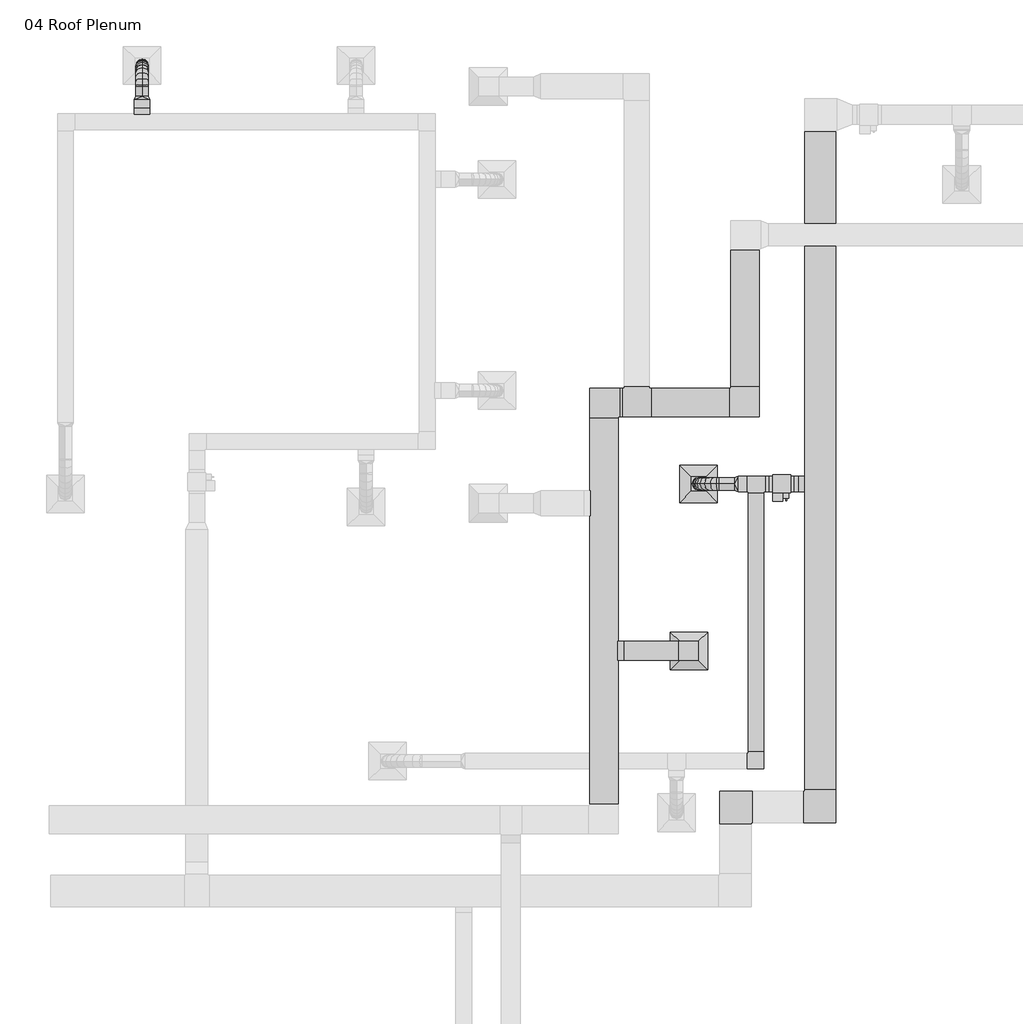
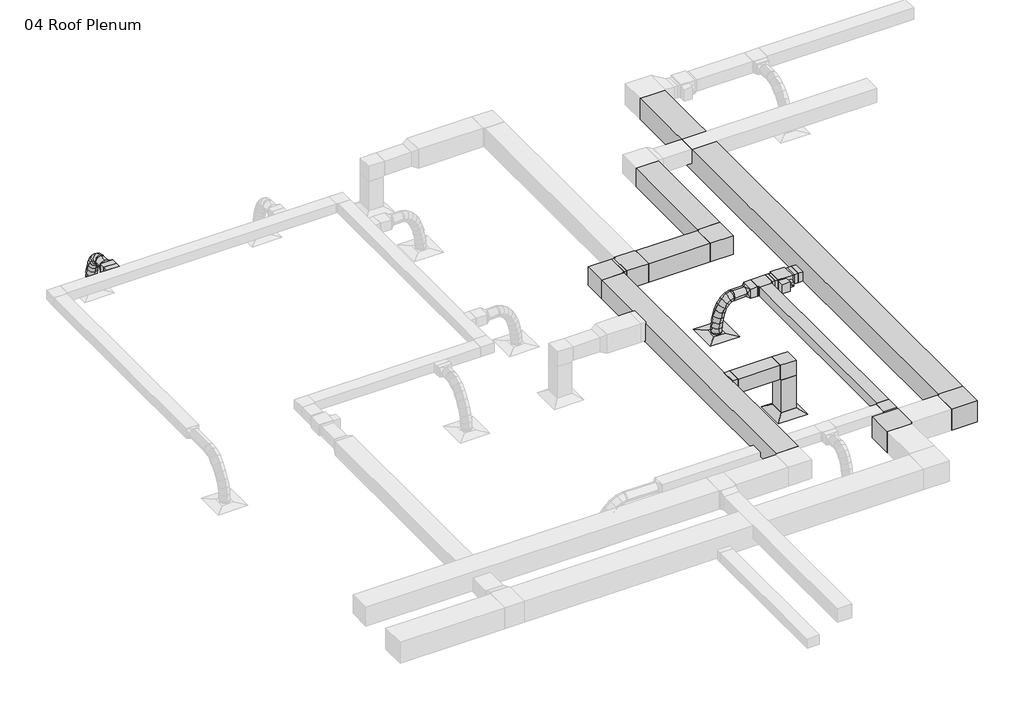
# One storey, part 5 of 9: 16 duct segments, 13 duct fittings, 2 air terminals, 1 proxy.
"""IFC4 building model written with IfcOpenShell, lengths in millimetres."""

from ifc_helpers import new_model, si_unit, point, frame, frame_2d, origin, place, context, project, spatial, polyline, circle_curve, ellipse_curve, trimmed, segment, composite_curve, outline, extrude, transform, mapped, element, save
from ifc_brep_helpers import plane_surface, cylinder_surface, advanced_brep
from components import return_diffuser_d30_returndiffuser_24x24_12x12_connection_ff543d60, supply_diffuser_rectangular_face_round_neck_d30_6390248a, bcn6785_vav_d30_vav1_8c327968, rectangular_elbow_mitered_standard_f09b78ec, rectangular_elbow_mitered_standard_946096ac, rectangular_elbow_mitered_standard_3a774ab6, rectangular_elbow_mitered_standard_4ff1c4e8, rectangular_takeoff_standard_ae128e4c, rectangular_takeoff_standard_c54ab2d1, rectangular_takeoff_standard_e60ef6aa, rectangular_tee_standard_72282cb7, rectangular_tee_standard_b316833c, rectangular_to_round_transition_angle_45_degree_e9430680

model = new_model("IFC4")

# Units and contexts
model_context = context("Model", 3, world=origin())
ifc_project = project(units=[si_unit("LENGTHUNIT", "METRE", prefix="MILLI")], contexts=[model_context])

# Site, building, storey
site = spatial("IfcSite", under=ifc_project)
building = spatial("IfcBuilding", under=site)
storey = spatial("IfcBuildingStorey", under=building, Name="04 Roof Plenum", Elevation=12192.0)

# Air terminals
placement = place(None, origin())
return_diffuser_d30_returndiffuser_24x24_12x12_connection_shape = return_diffuser_d30_returndiffuser_24x24_12x12_connection_ff543d60(model_context)
element("IfcAirTerminal", 1, ObjectType="Return Diffuser : D30_ReturnDiffuser_24x24 12x12 Connection", at=placement, inside=storey, context=model_context, shape_type="MappedRepresentation", body=[
    mapped(return_diffuser_d30_returndiffuser_24x24_12x12_connection_shape, transform((-6594.6439747, 2535.164804, 12192.0), x_axis=(1.0, 0.0, 0.0), y_axis=(0.0, 1.0, 0.0), z_axis=(0.0, 0.0, 1.0))),
])
supply_diffuser_rectangular_face_round_neck_d30_shape = supply_diffuser_rectangular_face_round_neck_d30_6390248a(model_context)
element("IfcAirTerminal", 2, ObjectType="Supply Diffuser - Rectangular Face Round Neck : D30_SupplyDiffuser_24x24 8 Neck", at=placement, inside=storey, context=model_context, shape_type="MappedRepresentation", body=[
    mapped(supply_diffuser_rectangular_face_round_neck_d30_shape, transform((-6441.7028333, 5243.1140793, 12192.0), x_axis=(1.0, 0.0, 0.0), y_axis=(0.0, 1.0, 0.0), z_axis=(0.0, 0.0, 1.0))),
])

# Proxy
bcn6785_vav_d30_vav1_shape = bcn6785_vav_d30_vav1_8c327968(model_context)
element("IfcBuildingElementProxy", 3, Name="BCN6785_VAV : D30_VAV1", ObjectType="BCN6785_VAV : D30_VAV1", at=placement, inside=storey, context=model_context, shape_type="MappedRepresentation", body=[
    mapped(bcn6785_vav_d30_vav1_shape, transform((-5241.2178172, 5243.1140793, 12782.55), x_axis=(1.0, 0.0, 0.0), y_axis=(0.0, 1.0, 0.0), z_axis=(0.0, 0.0, 1.0))),
])

# Duct fittings
rectangular_elbow_mitered_standard_shape = rectangular_elbow_mitered_standard_f09b78ec(model_context)
element("IfcDuctFitting", 4, ObjectType="Rectangular Elbow - Mitered : Standard", at=placement, inside=storey, context=model_context, shape_type="MappedRepresentation", body=[
    mapped(rectangular_elbow_mitered_standard_shape, transform((-5507.9178172, 747.3140793, 12903.2), x_axis=(1.0, 0.0, 0.0), y_axis=(0.0, 1.0, 0.0), z_axis=(0.0, 0.0, 1.0))),
])
rectangular_elbow_mitered_standard_2_shape = rectangular_elbow_mitered_standard_946096ac(model_context)
element("IfcDuctFitting", 5, ObjectType="Rectangular Elbow - Mitered : Standard", at=placement, inside=storey, context=model_context, shape_type="MappedRepresentation", body=[
    mapped(rectangular_elbow_mitered_standard_2_shape, transform((-5838.9142705, 1.6809317, 13030.2), x_axis=(-1.0, 0.0, 0.0), y_axis=(0.0, -1.0, 0.0), z_axis=(0.0, 0.0, 1.0))),
])
element("IfcDuctFitting", 6, ObjectType="Rectangular Elbow - Mitered : Standard", at=placement, inside=storey, context=model_context, shape_type="MappedRepresentation", body=[
    mapped(rectangular_elbow_mitered_standard_2_shape, transform((-4467.3142705, 1.6809317, 13030.2), x_axis=(1.0, 0.0, 0.0), y_axis=(0.0, 1.0, 0.0), z_axis=(0.0, 0.0, 1.0))),
])
rectangular_elbow_mitered_standard_3_shape = rectangular_elbow_mitered_standard_3a774ab6(model_context)
element("IfcDuctFitting", 7, ObjectType="Rectangular Elbow - Mitered : Standard", at=placement, inside=storey, context=model_context, shape_type="MappedRepresentation", body=[
    mapped(rectangular_elbow_mitered_standard_3_shape, transform((-7972.5142705, 6562.5101985, 13112.75), x_axis=(-1.0, 0.0, 0.0), y_axis=(0.0, -1.0, 0.0), z_axis=(0.0, 0.0, 1.0))),
])
element("IfcDuctFitting", 8, ObjectType="Rectangular Elbow - Mitered : Standard", at=placement, inside=storey, context=model_context, shape_type="MappedRepresentation", body=[
    mapped(rectangular_elbow_mitered_standard_3_shape, transform((-5686.5142705, 6562.5101985, 13112.75), x_axis=(1.0, 0.0, 0.0), y_axis=(0.0, 1.0, 0.0), z_axis=(0.0, 0.0, 1.0))),
])
rectangular_elbow_mitered_standard_4_shape = rectangular_elbow_mitered_standard_4ff1c4e8(model_context)
element("IfcDuctFitting", 9, ObjectType="Rectangular Elbow - Mitered : Standard", at=placement, inside=storey, context=model_context, shape_type="MappedRepresentation", body=[
    mapped(rectangular_elbow_mitered_standard_4_shape, transform((-6594.6439747, 2535.164804, 13182.6), x_axis=(0.0, 0.0, 1.0), y_axis=(-1.0, 0.0, 0.0), z_axis=(0.0, -1.0, 0.0))),
])
rectangular_takeoff_standard_shape = rectangular_takeoff_standard_ae128e4c(model_context)
element("IfcDuctFitting", 10, ObjectType="Rectangular Takeoff : Standard", at=placement, inside=storey, context=model_context, shape_type="MappedRepresentation", body=[
    mapped(rectangular_takeoff_standard_shape, transform((-4721.3142705, 5243.1140793, 12903.2), x_axis=(-1.0, 0.0, 0.0), y_axis=(0.0, 1.0, 0.0), z_axis=(0.0, 0.0, -1.0))),
])
rectangular_takeoff_standard_2_shape = rectangular_takeoff_standard_c54ab2d1(model_context)
element("IfcDuctFitting", 11, ObjectType="Rectangular Takeoff : Standard", at=placement, inside=storey, context=model_context, shape_type="MappedRepresentation", body=[
    mapped(rectangular_takeoff_standard_2_shape, transform((-15460.7496105, 11240.0921675, 13030.2), x_axis=(0.0, 1.0, 0.0), y_axis=(1.0, 0.0, 0.0), z_axis=(0.0, 0.0, -1.0))),
])
rectangular_takeoff_standard_3_shape = rectangular_takeoff_standard_e60ef6aa(model_context)
element("IfcDuctFitting", 12, ObjectType="Rectangular Takeoff : Standard", at=placement, inside=storey, context=model_context, shape_type="MappedRepresentation", body=[
    mapped(rectangular_takeoff_standard_3_shape, transform((-7743.9142705, 2535.164804, 13182.6), x_axis=(1.0, 0.0, 0.0), y_axis=(0.0, -1.0, 0.0), z_axis=(0.0, 0.0, -1.0))),
])
rectangular_tee_standard_shape = rectangular_tee_standard_72282cb7(model_context)
element("IfcDuctFitting", 13, ObjectType="Rectangular Tee : Standard", at=placement, inside=storey, context=model_context, shape_type="MappedRepresentation", body=[
    mapped(rectangular_tee_standard_shape, transform((-7438.7501862, 6562.5101985, 13112.75), x_axis=(-1.0, 0.0, 0.0), y_axis=(0.0, -1.0, 0.0), z_axis=(0.0, 0.0, 1.0))),
])
rectangular_tee_standard_2_shape = rectangular_tee_standard_b316833c(model_context)
element("IfcDuctFitting", 14, ObjectType="Rectangular Tee : Standard", at=placement, inside=storey, context=model_context, shape_type="MappedRepresentation", body=[
    mapped(rectangular_tee_standard_2_shape, transform((-5507.9178172, 5243.1140793, 12903.2), x_axis=(1.0, 0.0, 0.0), y_axis=(0.0, 1.0, 0.0), z_axis=(0.0, 0.0, 1.0))),
])
rectangular_to_round_transition_angle_45_degree_shape = rectangular_to_round_transition_angle_45_degree_e9430680(model_context)
element("IfcDuctFitting", 15, ObjectType="Rectangular to Round Transition - Angle : 45 Degree", at=placement, inside=storey, context=model_context, shape_type="MappedRepresentation", body=[
    mapped(rectangular_to_round_transition_angle_45_degree_shape, transform((-5800.0178172, 5243.1140793, 12903.2), x_axis=(-1.0, 0.0, 0.0), y_axis=(0.0, -1.0, 0.0), z_axis=(0.0, 0.0, 1.0))),
])
element("IfcDuctFitting", 16, ObjectType="Rectangular to Round Transition - Angle : 45 Degree", at=placement, inside=storey, context=model_context, shape_type="MappedRepresentation", body=[
    mapped(rectangular_to_round_transition_angle_45_degree_shape, transform((-15460.7496105, 11468.6921675, 13030.2), x_axis=(0.0, 1.0, 0.0), y_axis=(-1.0, 0.0, 0.0), z_axis=(0.0, 0.0, 1.0))),
])

# Duct segments
element("IfcDuctSegment", 17, ObjectType="Flex - Round", at=placement, inside=storey, context=model_context, shape_type="AdvancedBrep", body=[
    advanced_brep(
    [(-6115.3388417, 5141.5140793, 12903.2), (-6115.3388417, 5243.1140793, 12801.6), (-6115.3388417, 5344.7140793, 12903.2), (-6115.3388417, 5243.1140793, 13004.8), (-6136.8006942, 5141.5140793, 12903.2), (-6122.3666998, 5243.1140793, 12801.6), (-6136.8006942, 5344.7140793, 12903.2), (-6151.2346887, 5243.1140793, 13004.8), (-6441.7028333, 5141.5140793, 12245.975), (-6543.3028333, 5243.1140793, 12245.975), (-6441.7028333, 5344.7140793, 12245.975), (-6340.1028333, 5243.1140793, 12245.975), (-6199.5889682, 5141.5140793, 12884.9922452), (-6154.5785198, 5243.1140793, 12792.2590055), (-6199.5889682, 5344.7140793, 12884.9922452), (-6244.5994165, 5243.1140793, 12977.725485), (-6269.5234298, 5141.5140793, 12834.9053319), (-6197.7079979, 5243.1140793, 12761.3697647), (-6269.5234298, 5344.7140793, 12834.9053319), (-6341.3388618, 5243.1140793, 12908.4408991), (-6326.0922551, 5141.5140793, 12759.7437864), (-6238.6700491, 5243.1140793, 12706.9445391), (-6326.0922551, 5344.7140793, 12759.7437864), (-6413.5144611, 5243.1140793, 12812.5430337), (-6370.2454726, 5141.5140793, 12666.3121351), (-6275.3559299, 5243.1140793, 12629.3143544), (-6370.2454726, 5344.7140793, 12666.3121351), (-6465.1350152, 5243.1140793, 12703.3099158), (-6402.9331106, 5141.5140793, 12561.4149044), (-6304.3846196, 5243.1140793, 12536.1589802), (-6402.9331106, 5344.7140793, 12561.4149044), (-6501.4816016, 5243.1140793, 12586.6708286), (-6425.1051977, 5141.5140793, 12451.8566207), (-6324.6886562, 5243.1140793, 12435.8312394), (-6425.1051977, 5344.7140793, 12451.8566207), (-6525.5217392, 5243.1140793, 12467.882002), (-6437.7117625, 5141.5140793, 12344.4418105), (-6336.362671, 5243.1140793, 12336.3622635), (-6437.7117625, 5344.7140793, 12344.4418105), (-6539.0608539, 5243.1140793, 12352.5213574), (-6441.7028333, 5141.5140793, 12250.0896872), (-6340.1028333, 5243.1140793, 12247.9418204), (-6441.7028333, 5344.7140793, 12250.0896872), (-6543.3028333, 5243.1140793, 12252.2375539)],
    [
        (0, 1, circle_curve(frame((-6115.3388417, 5243.1140793, 12903.2), z_axis=(1.0, 0.0, 0.0), x_axis=(0.0, -1.0, 0.0)), 101.6)),
        (1, 2, circle_curve(frame((-6115.3388417, 5243.1140793, 12903.2), z_axis=(1.0, 0.0, 0.0), x_axis=(0.0, -1.0, 0.0)), 101.6)),
        (2, 3, circle_curve(frame((-6115.3388417, 5243.1140793, 12903.2), z_axis=(1.0, 0.0, 0.0), x_axis=(0.0, -1.0, 0.0)), 101.6)),
        (3, 0, circle_curve(frame((-6115.3388417, 5243.1140793, 12903.2), z_axis=(1.0, 0.0, 0.0), x_axis=(0.0, -1.0, 0.0)), 101.6)),
        (0, 4),
        (4, 5, ellipse_curve(frame((-6136.8006942, 5243.1140793, 12903.2), z_axis=(0.9900587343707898, 0.0, 0.14065455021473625), x_axis=(0.14065455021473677, -1.7075669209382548e-12, -0.9900587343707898)), 102.6201744, 101.6)),
        (5, 1),
        (5, 6, ellipse_curve(frame((-6136.8006942, 5243.1140793, 12903.2), z_axis=(0.9900587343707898, 0.0, 0.14065455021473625), x_axis=(0.14065455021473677, -1.7075669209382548e-12, -0.9900587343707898)), 102.6201744, 101.6)),
        (6, 2),
        (6, 7, ellipse_curve(frame((-6136.8006942, 5243.1140793, 12903.2), z_axis=(0.9900587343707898, 0.0, 0.14065455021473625), x_axis=(0.14065455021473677, -1.7075669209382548e-12, -0.9900587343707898)), 102.6201744, 101.6)),
        (7, 3),
        (7, 4, ellipse_curve(frame((-6136.8006942, 5243.1140793, 12903.2), z_axis=(0.9900587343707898, 0.0, 0.14065455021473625), x_axis=(0.14065455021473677, -1.7075669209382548e-12, -0.9900587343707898)), 102.6201744, 101.6)),
        (8, 9, circle_curve(frame((-6441.7028333, 5243.1140793, 12245.975), z_axis=(0.0, 0.0, -1.0), x_axis=(1.3693347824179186e-12, -1.0, 0.0)), 101.6)),
        (9, 10, circle_curve(frame((-6441.7028333, 5243.1140793, 12245.975), z_axis=(0.0, 0.0, -1.0), x_axis=(1.3693347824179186e-12, -1.0, 0.0)), 101.6)),
        (10, 11, circle_curve(frame((-6441.7028333, 5243.1140793, 12245.975), z_axis=(0.0, 0.0, -1.0), x_axis=(1.3693347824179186e-12, -1.0, 0.0)), 101.6)),
        (11, 8, circle_curve(frame((-6441.7028333, 5243.1140793, 12245.975), z_axis=(0.0, 0.0, -1.0), x_axis=(1.3693347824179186e-12, -1.0, 0.0)), 101.6)),
        (4, 12),
        (12, 13, ellipse_curve(frame((-6199.5889682, 5243.1140793, 12884.9922452), z_axis=(0.8996278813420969, 0.0, 0.4366573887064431), x_axis=(0.43665738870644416, -1.5599948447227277e-12, -0.8996278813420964)), 103.0795528, 101.6)),
        (13, 5),
        (13, 14, ellipse_curve(frame((-6199.5889682, 5243.1140793, 12884.9922452), z_axis=(0.8996278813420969, 0.0, 0.4366573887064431), x_axis=(0.43665738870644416, -1.5599948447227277e-12, -0.8996278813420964)), 103.0795528, 101.6)),
        (14, 6),
        (14, 15, ellipse_curve(frame((-6199.5889682, 5243.1140793, 12884.9922452), z_axis=(0.8996278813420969, 0.0, 0.4366573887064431), x_axis=(0.43665738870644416, -1.5599948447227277e-12, -0.8996278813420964)), 103.0795528, 101.6)),
        (15, 7),
        (15, 12, ellipse_curve(frame((-6199.5889682, 5243.1140793, 12884.9922452), z_axis=(0.8996278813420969, 0.0, 0.4366573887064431), x_axis=(0.43665738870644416, -1.5599948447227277e-12, -0.8996278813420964)), 103.0795528, 101.6)),
        (12, 16),
        (16, 17, ellipse_curve(frame((-6269.5234298, 5243.1140793, 12834.9053319), z_axis=(0.7154248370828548, 1.155745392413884e-12, 0.6986897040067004), x_axis=(0.6986897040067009, 0.0, -0.7154248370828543)), 102.7858741, 101.6)),
        (17, 13),
        (17, 18, ellipse_curve(frame((-6269.5234298, 5243.1140793, 12834.9053319), z_axis=(0.7154248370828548, 1.155745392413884e-12, 0.6986897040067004), x_axis=(0.6986897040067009, 0.0, -0.7154248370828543)), 102.7858741, 101.6)),
        (18, 14),
        (18, 19, ellipse_curve(frame((-6269.5234298, 5243.1140793, 12834.9053319), z_axis=(0.7154248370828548, 1.155745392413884e-12, 0.6986897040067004), x_axis=(0.6986897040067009, 0.0, -0.7154248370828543)), 102.7858741, 101.6)),
        (19, 15),
        (19, 16, ellipse_curve(frame((-6269.5234298, 5243.1140793, 12834.9053319), z_axis=(0.7154248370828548, 1.155745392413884e-12, 0.6986897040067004), x_axis=(0.6986897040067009, 0.0, -0.7154248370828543)), 102.7858741, 101.6)),
        (16, 20),
        (20, 21, ellipse_curve(frame((-6326.0922551, 5243.1140793, 12759.7437864), z_axis=(0.5169841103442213, 1.3163360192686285e-12, 0.855994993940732), x_axis=(0.855994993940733, 0.0, -0.5169841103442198)), 102.1293426, 101.6)),
        (21, 17),
        (21, 22, ellipse_curve(frame((-6326.0922551, 5243.1140793, 12759.7437864), z_axis=(0.5169841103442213, 1.3163360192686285e-12, 0.855994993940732), x_axis=(0.855994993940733, 0.0, -0.5169841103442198)), 102.1293426, 101.6)),
        (22, 18),
        (22, 23, ellipse_curve(frame((-6326.0922551, 5243.1140793, 12759.7437864), z_axis=(0.5169841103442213, 1.3163360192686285e-12, 0.855994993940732), x_axis=(0.855994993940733, 0.0, -0.5169841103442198)), 102.1293426, 101.6)),
        (23, 19),
        (23, 20, ellipse_curve(frame((-6326.0922551, 5243.1140793, 12759.7437864), z_axis=(0.5169841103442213, 1.3163360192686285e-12, 0.855994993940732), x_axis=(0.855994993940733, 0.0, -0.5169841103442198)), 102.1293426, 101.6)),
        (20, 24),
        (24, 25, ellipse_curve(frame((-6370.2454726, 5243.1140793, 12666.3121351), z_axis=(0.3632673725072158, 1.3045725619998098e-12, 0.9316849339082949), x_axis=(0.9316849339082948, 0.0, -0.36326737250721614)), 101.8472438, 101.6)),
        (25, 21),
        (25, 26, ellipse_curve(frame((-6370.2454726, 5243.1140793, 12666.3121351), z_axis=(0.3632673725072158, 1.3045725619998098e-12, 0.9316849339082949), x_axis=(0.9316849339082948, 0.0, -0.36326737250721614)), 101.8472438, 101.6)),
        (26, 22),
        (26, 27, ellipse_curve(frame((-6370.2454726, 5243.1140793, 12666.3121351), z_axis=(0.3632673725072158, 1.3045725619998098e-12, 0.9316849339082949), x_axis=(0.9316849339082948, 0.0, -0.36326737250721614)), 101.8472438, 101.6)),
        (27, 23),
        (27, 24, ellipse_curve(frame((-6370.2454726, 5243.1140793, 12666.3121351), z_axis=(0.3632673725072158, 1.3045725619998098e-12, 0.9316849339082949), x_axis=(0.9316849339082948, 0.0, -0.36326737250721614)), 101.8472438, 101.6)),
        (24, 28),
        (28, 29, ellipse_curve(frame((-6402.9331106, 5243.1140793, 12561.4149044), z_axis=(0.24825618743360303, 1.169956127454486e-12, 0.968694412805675), x_axis=(0.9686944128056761, 1.819283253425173e-12, -0.24825618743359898)), 101.7333121, 101.6)),
        (29, 25),
        (29, 30, ellipse_curve(frame((-6402.9331106, 5243.1140793, 12561.4149044), z_axis=(0.24825618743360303, 1.169956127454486e-12, 0.968694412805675), x_axis=(0.9686944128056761, 1.819283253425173e-12, -0.24825618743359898)), 101.7333121, 101.6)),
        (30, 26),
        (30, 31, ellipse_curve(frame((-6402.9331106, 5243.1140793, 12561.4149044), z_axis=(0.24825618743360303, 1.169956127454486e-12, 0.968694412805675), x_axis=(0.9686944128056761, 1.819283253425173e-12, -0.24825618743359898)), 101.7333121, 101.6)),
        (31, 27),
        (31, 28, ellipse_curve(frame((-6402.9331106, 5243.1140793, 12561.4149044), z_axis=(0.24825618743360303, 1.169956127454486e-12, 0.968694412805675), x_axis=(0.9686944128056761, 1.819283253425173e-12, -0.24825618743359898)), 101.7333121, 101.6)),
        (28, 32),
        (32, 33, ellipse_curve(frame((-6425.1051977, 5243.1140793, 12451.8566207), z_axis=(0.15759481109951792, 0.0, 0.9875038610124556), x_axis=(0.9875038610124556, 3.3119562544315e-12, -0.15759481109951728)), 101.6872394, 101.6)),
        (33, 29),
        (33, 34, ellipse_curve(frame((-6425.1051977, 5243.1140793, 12451.8566207), z_axis=(0.15759481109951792, 0.0, 0.9875038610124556), x_axis=(0.9875038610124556, 3.3119562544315e-12, -0.15759481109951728)), 101.6872394, 101.6)),
        (34, 30),
        (34, 35, ellipse_curve(frame((-6425.1051977, 5243.1140793, 12451.8566207), z_axis=(0.15759481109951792, 0.0, 0.9875038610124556), x_axis=(0.9875038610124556, 3.3119562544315e-12, -0.15759481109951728)), 101.6872394, 101.6)),
        (35, 31),
        (35, 32, ellipse_curve(frame((-6425.1051977, 5243.1140793, 12451.8566207), z_axis=(0.15759481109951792, 0.0, 0.9875038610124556), x_axis=(0.9875038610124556, 3.3119562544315e-12, -0.15759481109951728)), 101.6872394, 101.6)),
        (32, 36),
        (36, 37, ellipse_curve(frame((-6437.7117625, 5243.1140793, 12344.4418105), z_axis=(0.07946785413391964, 0.0, 0.9968374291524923), x_axis=(0.9968374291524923, 6.2849785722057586e-12, -0.07946785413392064)), 101.670632, 101.6)),
        (37, 33),
        (37, 38, ellipse_curve(frame((-6437.7117625, 5243.1140793, 12344.4418105), z_axis=(0.07946785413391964, 0.0, 0.9968374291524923), x_axis=(0.9968374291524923, 6.2849785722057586e-12, -0.07946785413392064)), 101.670632, 101.6)),
        (38, 34),
        (38, 39, ellipse_curve(frame((-6437.7117625, 5243.1140793, 12344.4418105), z_axis=(0.07946785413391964, 0.0, 0.9968374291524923), x_axis=(0.9968374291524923, 6.2849785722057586e-12, -0.07946785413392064)), 101.670632, 101.6)),
        (39, 35),
        (39, 36, ellipse_curve(frame((-6437.7117625, 5243.1140793, 12344.4418105), z_axis=(0.07946785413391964, 0.0, 0.9968374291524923), x_axis=(0.9968374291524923, 6.2849785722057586e-12, -0.07946785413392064)), 101.670632, 101.6)),
        (36, 40),
        (40, 41, ellipse_curve(frame((-6441.7028333, 5243.1140793, 12250.0896872), z_axis=(0.021135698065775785, 0.0, 0.9997766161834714), x_axis=(0.9997766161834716, 7.866593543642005e-12, -0.02113569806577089)), 101.6227009, 101.6)),
        (41, 37),
        (41, 42, ellipse_curve(frame((-6441.7028333, 5243.1140793, 12250.0896872), z_axis=(0.021135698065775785, 0.0, 0.9997766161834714), x_axis=(0.9997766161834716, 7.866593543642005e-12, -0.02113569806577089)), 101.6227009, 101.6)),
        (42, 38),
        (42, 43, ellipse_curve(frame((-6441.7028333, 5243.1140793, 12250.0896872), z_axis=(0.021135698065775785, 0.0, 0.9997766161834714), x_axis=(0.9997766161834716, 7.866593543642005e-12, -0.02113569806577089)), 101.6227009, 101.6)),
        (43, 39),
        (43, 40, ellipse_curve(frame((-6441.7028333, 5243.1140793, 12250.0896872), z_axis=(0.021135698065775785, 0.0, 0.9997766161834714), x_axis=(0.9997766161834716, 7.866593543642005e-12, -0.02113569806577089)), 101.6227009, 101.6)),
        (40, 8),
        (11, 41),
        (10, 42),
        (9, 43),
    ],
    [
        plane_surface(frame((-6115.3388417, 5243.1140793, 12801.6), z_axis=(1.0, 0.0, 0.0), x_axis=(0.0, -1.0, 0.0))),
        cylinder_surface(frame((-6115.3388417, 5243.1140793, 12903.2), z_axis=(1.0, 0.0, 0.0), x_axis=(0.0, -1.0, 0.0)), 101.6),
        plane_surface(frame((-6441.7028333, 5141.5140793, 12245.975), z_axis=(0.0, 0.0, -1.0), x_axis=(-1.0, 0.0, 0.0))),
        cylinder_surface(frame((-6136.8006942, 5243.1140793, 12903.2), z_axis=(0.9604325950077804, 0.0, 0.278512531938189), x_axis=(0.0, -1.0, 0.0)), 101.6),
        cylinder_surface(frame((-6199.5889682, 5243.1140793, 12884.9922452), z_axis=(0.812997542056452, 1.0070781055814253e-12, 0.5822671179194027), x_axis=(1.0068307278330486e-12, -1.0, 0.0)), 101.6),
        cylinder_surface(frame((-6269.5234298, 5243.1140793, 12834.9053319), z_axis=(0.6013439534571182, 1.2777442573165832e-12, 0.7989902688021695), x_axis=(1.3061802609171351e-12, -1.0, 0.0)), 101.6),
        cylinder_surface(frame((-6326.0922551, 5243.1140793, 12759.7437864), z_axis=(0.42726514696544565, 1.3412824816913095e-12, 0.9041263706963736), x_axis=(1.423699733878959e-12, -1.0, 0.0)), 101.6),
        cylinder_surface(frame((-6370.2454726, 5243.1140793, 12666.3121351), z_axis=(0.29750586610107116, 1.2615286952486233e-12, 0.9547199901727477), x_axis=(1.44699364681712e-12, -1.0, 0.0)), 101.6),
        cylinder_surface(frame((-6402.9331106, 5243.1140793, 12561.4149044), z_axis=(0.19835587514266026, 1.075317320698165e-12, 0.9801300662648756), x_axis=(1.4308705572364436e-12, -1.0, 0.0)), 101.6),
        cylinder_surface(frame((-6425.1051977, 5243.1140793, 12451.8566207), z_axis=(0.11656334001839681, 0.0, 0.9931832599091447), x_axis=(1.4043990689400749e-12, -1.0, 0.0)), 101.6),
        cylinder_surface(frame((-6437.7117625, 5243.1140793, 12344.4418105), z_axis=(0.042261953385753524, 0.0, 0.9991065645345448), x_axis=(1.3751412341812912e-12, -1.0, 0.0)), 101.6),
        cylinder_surface(frame((-6441.7028333, 5243.1140793, 12250.0896872), z_axis=(0.0, 0.0, 1.0), x_axis=(1.3693347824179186e-12, -1.0, 0.0)), 101.6),
    ],
    [
        (0, [[1, 2, 3, 4]]),
        (1, [[-1, 5, 6, 7]]),
        (1, [[-2, -7, 8, 9]]),
        (1, [[-3, -9, 10, 11]]),
        (1, [[-4, -11, 12, -5]]),
        (2, [[13, 14, 15, 16]]),
        (3, [[-6, 17, 18, 19]]),
        (3, [[-8, -19, 20, 21]]),
        (3, [[-10, -21, 22, 23]]),
        (3, [[-12, -23, 24, -17]]),
        (4, [[-18, 25, 26, 27]]),
        (4, [[-20, -27, 28, 29]]),
        (4, [[-22, -29, 30, 31]]),
        (4, [[-24, -31, 32, -25]]),
        (5, [[-26, 33, 34, 35]]),
        (5, [[-28, -35, 36, 37]]),
        (5, [[-30, -37, 38, 39]]),
        (5, [[-32, -39, 40, -33]]),
        (6, [[-34, 41, 42, 43]]),
        (6, [[-36, -43, 44, 45]]),
        (6, [[-38, -45, 46, 47]]),
        (6, [[-40, -47, 48, -41]]),
        (7, [[-42, 49, 50, 51]]),
        (7, [[-44, -51, 52, 53]]),
        (7, [[-46, -53, 54, 55]]),
        (7, [[-48, -55, 56, -49]]),
        (8, [[-50, 57, 58, 59]]),
        (8, [[-52, -59, 60, 61]]),
        (8, [[-54, -61, 62, 63]]),
        (8, [[-56, -63, 64, -57]]),
        (9, [[-58, 65, 66, 67]]),
        (9, [[-60, -67, 68, 69]]),
        (9, [[-62, -69, 70, 71]]),
        (9, [[-64, -71, 72, -65]]),
        (10, [[-66, 73, 74, 75]]),
        (10, [[-68, -75, 76, 77]]),
        (10, [[-70, -77, 78, 79]]),
        (10, [[-72, -79, 80, -73]]),
        (11, [[-74, 81, -16, 82]]),
        (11, [[-76, -82, -15, 83]]),
        (11, [[-78, -83, -14, 84]]),
        (11, [[-80, -84, -13, -81]]),
    ],
),
])
element("IfcDuctSegment", 18, ObjectType="Flex - Round", at=placement, inside=storey, context=model_context, shape_type="AdvancedBrep", body=[
    advanced_brep(
    [(-15562.3496105, 11682.413192, 13030.2), (-15460.7496105, 11682.413192, 12928.6), (-15359.1496105, 11682.413192, 13030.2), (-15460.7496105, 11682.413192, 13131.8), (-15562.3496105, 11702.4276389, 13030.2), (-15460.7496105, 11689.3912338, 12928.6), (-15359.1496105, 11702.4276389, 13030.2), (-15460.7496105, 11715.464044, 13131.8), (-15562.3496105, 12027.4921675, 12245.975), (-15460.7496105, 12129.0633727, 12248.3937348), (-15359.1496105, 12027.4921675, 12245.975), (-15460.7496105, 11925.9209623, 12243.5562652), (-15562.3496105, 11769.4660126, 13012.7084931), (-15460.7496105, 11726.9233762, 12918.8071949), (-15359.1496105, 11769.4660126, 13012.7084931), (-15460.7496105, 11812.008649, 13106.6097913), (-15562.3496105, 11841.1410968, 12964.1388308), (-15460.7496105, 11770.923806, 12888.990892), (-15359.1496105, 11841.1410968, 12964.1388308), (-15460.7496105, 11911.3583875, 13039.2867696), (-15562.3496105, 11898.8098982, 12890.3483007), (-15460.7496105, 11812.0668866, 12836.3459671), (-15359.1496105, 11898.8098982, 12890.3483007), (-15460.7496105, 11985.5529098, 12944.3506344), (-15562.3496105, 11943.8438704, 12797.1941904), (-15460.7496105, 11849.1898623, 12759.555988), (-15359.1496105, 11943.8438704, 12797.1941904), (-15460.7496105, 12038.4978784, 12834.8323928), (-15562.3496105, 11977.6144668, 12690.5337874), (-15460.7496105, 11879.208129, 12664.7468712), (-15359.1496105, 11977.6144668, 12690.5337874), (-15460.7496105, 12076.0208046, 12716.3207035), (-15562.3496105, 12001.4931412, 12576.2243792), (-15460.7496105, 11901.2665537, 12559.151166), (-15359.1496105, 12001.4931412, 12576.2243792), (-15460.7496105, 12101.7197288, 12593.2975925), (-15562.3496105, 12016.8513471, 12460.1232536), (-15460.7496105, 11915.739772, 12449.740148), (-15359.1496105, 12016.8513471, 12460.1232536), (-15460.7496105, 12117.9629222, 12470.5063592), (-15562.3496105, 12025.060538, 12348.087698), (-15460.7496105, 11923.5490074, 12343.1630143), (-15359.1496105, 12025.060538, 12348.087698), (-15460.7496105, 12126.5720685, 12353.0123817)],
    [
        (0, 1, circle_curve(frame((-15460.7496105, 11682.413192, 13030.2), z_axis=(0.0, -1.0, 0.0), x_axis=(-1.0, 0.0, 0.0)), 101.6)),
        (1, 2, circle_curve(frame((-15460.7496105, 11682.413192, 13030.2), z_axis=(0.0, -1.0, 0.0), x_axis=(-1.0, 0.0, 0.0)), 101.6)),
        (2, 3, circle_curve(frame((-15460.7496105, 11682.413192, 13030.2), z_axis=(0.0, -1.0, 0.0), x_axis=(-1.0, 0.0, 0.0)), 101.6)),
        (3, 0, circle_curve(frame((-15460.7496105, 11682.413192, 13030.2), z_axis=(0.0, -1.0, 0.0), x_axis=(-1.0, 0.0, 0.0)), 101.6)),
        (0, 4),
        (4, 5, ellipse_curve(frame((-15460.7496105, 11702.4276389, 13030.2), z_axis=(0.0, -0.9918684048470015, 0.1272677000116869), x_axis=(0.0, -0.12726770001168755, -0.9918684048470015)), 102.4329432, 101.6)),
        (5, 1),
        (5, 6, ellipse_curve(frame((-15460.7496105, 11702.4276389, 13030.2), z_axis=(0.0, -0.9918684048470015, 0.1272677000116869), x_axis=(0.0, -0.12726770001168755, -0.9918684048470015)), 102.4329432, 101.6)),
        (6, 2),
        (6, 7, ellipse_curve(frame((-15460.7496105, 11702.4276389, 13030.2), z_axis=(0.0, -0.9918684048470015, 0.1272677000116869), x_axis=(0.0, -0.12726770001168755, -0.9918684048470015)), 102.4329432, 101.6)),
        (7, 3),
        (7, 4, ellipse_curve(frame((-15460.7496105, 11702.4276389, 13030.2), z_axis=(0.0, -0.9918684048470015, 0.1272677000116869), x_axis=(0.0, -0.12726770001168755, -0.9918684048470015)), 102.4329432, 101.6)),
        (8, 9, circle_curve(frame((-15460.7496105, 12027.4921675, 12245.975), z_axis=(0.0, 0.02380644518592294, -0.9997165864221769), x_axis=(-1.0, 0.0, 0.0)), 101.6)),
        (9, 10, circle_curve(frame((-15460.7496105, 12027.4921675, 12245.975), z_axis=(0.0, 0.02380644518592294, -0.9997165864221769), x_axis=(-1.0, 0.0, 0.0)), 101.6)),
        (10, 11, circle_curve(frame((-15460.7496105, 12027.4921675, 12245.975), z_axis=(0.0, 0.02380644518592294, -0.9997165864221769), x_axis=(-1.0, 0.0, 0.0)), 101.6)),
        (11, 8, circle_curve(frame((-15460.7496105, 12027.4921675, 12245.975), z_axis=(0.0, 0.02380644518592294, -0.9997165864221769), x_axis=(-1.0, 0.0, 0.0)), 101.6)),
        (4, 12),
        (12, 13, ellipse_curve(frame((-15460.7496105, 11769.4660126, 13012.7084931), z_axis=(0.0, -0.9108765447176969, 0.4126789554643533), x_axis=(0.0, -0.4126789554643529, -0.910876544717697)), 103.0889408, 101.6)),
        (13, 5),
        (13, 14, ellipse_curve(frame((-15460.7496105, 11769.4660126, 13012.7084931), z_axis=(0.0, -0.9108765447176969, 0.4126789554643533), x_axis=(0.0, -0.4126789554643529, -0.910876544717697)), 103.0889408, 101.6)),
        (14, 6),
        (14, 15, ellipse_curve(frame((-15460.7496105, 11769.4660126, 13012.7084931), z_axis=(0.0, -0.9108765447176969, 0.4126789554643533), x_axis=(0.0, -0.4126789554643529, -0.910876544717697)), 103.0889408, 101.6)),
        (15, 7),
        (15, 12, ellipse_curve(frame((-15460.7496105, 11769.4660126, 13012.7084931), z_axis=(0.0, -0.9108765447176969, 0.4126789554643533), x_axis=(0.0, -0.4126789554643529, -0.910876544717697)), 103.0889408, 101.6)),
        (12, 16),
        (16, 17, ellipse_curve(frame((-15460.7496105, 11841.1410968, 12964.1388308), z_axis=(0.0, -0.7306709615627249, 0.6827297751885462), x_axis=(0.0, -0.6827297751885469, -0.7306709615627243)), 102.8478518, 101.6)),
        (17, 13),
        (17, 18, ellipse_curve(frame((-15460.7496105, 11841.1410968, 12964.1388308), z_axis=(0.0, -0.7306709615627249, 0.6827297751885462), x_axis=(0.0, -0.6827297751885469, -0.7306709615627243)), 102.8478518, 101.6)),
        (18, 14),
        (18, 19, ellipse_curve(frame((-15460.7496105, 11841.1410968, 12964.1388308), z_axis=(0.0, -0.7306709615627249, 0.6827297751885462), x_axis=(0.0, -0.6827297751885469, -0.7306709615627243)), 102.8478518, 101.6)),
        (19, 15),
        (19, 16, ellipse_curve(frame((-15460.7496105, 11841.1410968, 12964.1388308), z_axis=(0.0, -0.7306709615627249, 0.6827297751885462), x_axis=(0.0, -0.6827297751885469, -0.7306709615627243)), 102.8478518, 101.6)),
        (16, 20),
        (20, 21, ellipse_curve(frame((-15460.7496105, 11898.8098982, 12890.3483007), z_axis=(0.0, -0.5285057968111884, 0.8489296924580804), x_axis=(0.0, -0.8489296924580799, -0.5285057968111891)), 102.1792646, 101.6)),
        (21, 17),
        (21, 22, ellipse_curve(frame((-15460.7496105, 11898.8098982, 12890.3483007), z_axis=(0.0, -0.5285057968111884, 0.8489296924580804), x_axis=(0.0, -0.8489296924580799, -0.5285057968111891)), 102.1792646, 101.6)),
        (22, 18),
        (22, 23, ellipse_curve(frame((-15460.7496105, 11898.8098982, 12890.3483007), z_axis=(0.0, -0.5285057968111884, 0.8489296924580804), x_axis=(0.0, -0.8489296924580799, -0.5285057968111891)), 102.1792646, 101.6)),
        (23, 19),
        (23, 20, ellipse_curve(frame((-15460.7496105, 11898.8098982, 12890.3483007), z_axis=(0.0, -0.5285057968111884, 0.8489296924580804), x_axis=(0.0, -0.8489296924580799, -0.5285057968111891)), 102.1792646, 101.6)),
        (20, 24),
        (24, 25, ellipse_curve(frame((-15460.7496105, 11943.8438704, 12797.1941904), z_axis=(0.0, -0.3694992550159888, 0.9292310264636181), x_axis=(0.0, -0.9292310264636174, -0.36949925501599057)), 101.8627288, 101.6)),
        (25, 21),
        (25, 26, ellipse_curve(frame((-15460.7496105, 11943.8438704, 12797.1941904), z_axis=(0.0, -0.3694992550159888, 0.9292310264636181), x_axis=(0.0, -0.9292310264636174, -0.36949925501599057)), 101.8627288, 101.6)),
        (26, 22),
        (26, 27, ellipse_curve(frame((-15460.7496105, 11943.8438704, 12797.1941904), z_axis=(0.0, -0.3694992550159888, 0.9292310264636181), x_axis=(0.0, -0.9292310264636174, -0.36949925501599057)), 101.8627288, 101.6)),
        (27, 23),
        (27, 24, ellipse_curve(frame((-15460.7496105, 11943.8438704, 12797.1941904), z_axis=(0.0, -0.3694992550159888, 0.9292310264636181), x_axis=(0.0, -0.9292310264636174, -0.36949925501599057)), 101.8627288, 101.6)),
        (24, 28),
        (28, 29, ellipse_curve(frame((-15460.7496105, 11977.6144668, 12690.5337874), z_axis=(0.0, -0.25348659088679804, 0.967338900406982), x_axis=(0.0, -0.9673389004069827, -0.25348659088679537)), 101.7289161, 101.6)),
        (29, 25),
        (29, 30, ellipse_curve(frame((-15460.7496105, 11977.6144668, 12690.5337874), z_axis=(0.0, -0.25348659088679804, 0.967338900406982), x_axis=(0.0, -0.9673389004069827, -0.25348659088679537)), 101.7289161, 101.6)),
        (30, 26),
        (30, 31, ellipse_curve(frame((-15460.7496105, 11977.6144668, 12690.5337874), z_axis=(0.0, -0.25348659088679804, 0.967338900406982), x_axis=(0.0, -0.9673389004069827, -0.25348659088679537)), 101.7289161, 101.6)),
        (31, 27),
        (31, 28, ellipse_curve(frame((-15460.7496105, 11977.6144668, 12690.5337874), z_axis=(0.0, -0.25348659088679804, 0.967338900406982), x_axis=(0.0, -0.9673389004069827, -0.25348659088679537)), 101.7289161, 101.6)),
        (28, 32),
        (32, 33, ellipse_curve(frame((-15460.7496105, 12001.4931412, 12576.2243792), z_axis=(0.0, -0.16792713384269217, 0.9857994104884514), x_axis=(0.0, -0.9857994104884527, -0.16792713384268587)), 101.6703667, 101.6)),
        (33, 29),
        (33, 34, ellipse_curve(frame((-15460.7496105, 12001.4931412, 12576.2243792), z_axis=(0.0, -0.16792713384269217, 0.9857994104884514), x_axis=(0.0, -0.9857994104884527, -0.16792713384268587)), 101.6703667, 101.6)),
        (34, 30),
        (34, 35, ellipse_curve(frame((-15460.7496105, 12001.4931412, 12576.2243792), z_axis=(0.0, -0.16792713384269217, 0.9857994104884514), x_axis=(0.0, -0.9857994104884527, -0.16792713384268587)), 101.6703667, 101.6)),
        (35, 31),
        (35, 32, ellipse_curve(frame((-15460.7496105, 12001.4931412, 12576.2243792), z_axis=(0.0, -0.16792713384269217, 0.9857994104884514), x_axis=(0.0, -0.9857994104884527, -0.16792713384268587)), 101.6703667, 101.6)),
        (32, 36),
        (36, 37, ellipse_curve(frame((-15460.7496105, 12016.8513471, 12460.1232536), z_axis=(0.0, -0.1021523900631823, 0.9947687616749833), x_axis=(0.0, -0.9947687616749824, -0.10215239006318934)), 101.6432954, 101.6)),
        (37, 33),
        (37, 38, ellipse_curve(frame((-15460.7496105, 12016.8513471, 12460.1232536), z_axis=(0.0, -0.1021523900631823, 0.9947687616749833), x_axis=(0.0, -0.9947687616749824, -0.10215239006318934)), 101.6432954, 101.6)),
        (38, 34),
        (38, 39, ellipse_curve(frame((-15460.7496105, 12016.8513471, 12460.1232536), z_axis=(0.0, -0.1021523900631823, 0.9947687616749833), x_axis=(0.0, -0.9947687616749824, -0.10215239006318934)), 101.6432954, 101.6)),
        (39, 35),
        (39, 36, ellipse_curve(frame((-15460.7496105, 12016.8513471, 12460.1232536), z_axis=(0.0, -0.1021523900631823, 0.9947687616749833), x_axis=(0.0, -0.9947687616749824, -0.10215239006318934)), 101.6432954, 101.6)),
        (36, 40),
        (40, 41, ellipse_curve(frame((-15460.7496105, 12025.060538, 12348.087698), z_axis=(0.0, -0.04845655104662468, 0.9988252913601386), x_axis=(0.0, -0.9988252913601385, -0.048456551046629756)), 101.6309172, 101.6)),
        (41, 37),
        (41, 42, ellipse_curve(frame((-15460.7496105, 12025.060538, 12348.087698), z_axis=(0.0, -0.04845655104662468, 0.9988252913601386), x_axis=(0.0, -0.9988252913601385, -0.048456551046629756)), 101.6309172, 101.6)),
        (42, 38),
        (42, 43, ellipse_curve(frame((-15460.7496105, 12025.060538, 12348.087698), z_axis=(0.0, -0.04845655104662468, 0.9988252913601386), x_axis=(0.0, -0.9988252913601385, -0.048456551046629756)), 101.6309172, 101.6)),
        (43, 39),
        (43, 40, ellipse_curve(frame((-15460.7496105, 12025.060538, 12348.087698), z_axis=(0.0, -0.04845655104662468, 0.9988252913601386), x_axis=(0.0, -0.9988252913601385, -0.048456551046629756)), 101.6309172, 101.6)),
        (40, 8),
        (11, 41),
        (10, 42),
        (9, 43),
    ],
    [
        plane_surface(frame((-15562.3496105, 11682.413192, 13030.2), z_axis=(0.0, -1.0, 0.0), x_axis=(0.0, 0.0, 1.0))),
        cylinder_surface(frame((-15460.7496105, 11682.413192, 13030.2), z_axis=(0.0, -1.0, 0.0), x_axis=(-1.0, 0.0, 0.0)), 101.6),
        plane_surface(frame((-15460.7496105, 12129.0633727, 12248.3937348), z_axis=(0.0, 0.02380644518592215, -0.9997165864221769), x_axis=(1.0, 0.0, 0.0))),
        cylinder_surface(frame((-15460.7496105, 11702.4276389, 13030.2), z_axis=(0.0, -0.9676058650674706, 0.25246562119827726), x_axis=(-1.0, 0.0, 0.0)), 101.6),
        cylinder_surface(frame((-15460.7496105, 11769.4660126, 13012.7084931), z_axis=(0.0, -0.8278351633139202, 0.5609714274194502), x_axis=(-1.0, 0.0, 0.0)), 101.6),
        cylinder_surface(frame((-15460.7496105, 11841.1410968, 12964.1388308), z_axis=(0.0, -0.6157763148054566, 0.7879210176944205), x_axis=(-1.0, 0.0, 0.0)), 101.6),
        cylinder_surface(frame((-15460.7496105, 11898.8098982, 12890.3483007), z_axis=(0.0, -0.4352429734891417, 0.9003130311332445), x_axis=(-1.0, 0.0, 0.0)), 101.6),
        cylinder_surface(frame((-15460.7496105, 11943.8438704, 12797.1941904), z_axis=(0.0, -0.30184947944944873, 0.9533555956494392), x_axis=(-1.0, 0.0, 0.0)), 101.6),
        cylinder_surface(frame((-15460.7496105, 11977.6144668, 12690.5337874), z_axis=(0.0, -0.20448124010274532, 0.9788704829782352), x_axis=(-1.0, 0.0, 0.0)), 101.6),
        cylinder_surface(frame((-15460.7496105, 12001.4931412, 12576.2243792), z_axis=(0.0, -0.13114058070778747, 0.9913637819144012), x_axis=(-1.0, 0.0, 0.0)), 101.6),
        cylinder_surface(frame((-15460.7496105, 12016.8513471, 12460.1232536), z_axis=(0.0, -0.07307717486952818, 0.9973262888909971), x_axis=(-1.0, 0.0, 0.0)), 101.6),
        cylinder_surface(frame((-15460.7496105, 12025.060538, 12348.087698), z_axis=(0.0, -0.02380644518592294, 0.9997165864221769), x_axis=(-1.0, 0.0, 0.0)), 101.6),
    ],
    [
        (0, [[1, 2, 3, 4]]),
        (1, [[-1, 5, 6, 7]]),
        (1, [[-2, -7, 8, 9]]),
        (1, [[-3, -9, 10, 11]]),
        (1, [[-4, -11, 12, -5]]),
        (2, [[13, 14, 15, 16]]),
        (3, [[-6, 17, 18, 19]]),
        (3, [[-8, -19, 20, 21]]),
        (3, [[-10, -21, 22, 23]]),
        (3, [[-12, -23, 24, -17]]),
        (4, [[-18, 25, 26, 27]]),
        (4, [[-20, -27, 28, 29]]),
        (4, [[-22, -29, 30, 31]]),
        (4, [[-24, -31, 32, -25]]),
        (5, [[-26, 33, 34, 35]]),
        (5, [[-28, -35, 36, 37]]),
        (5, [[-30, -37, 38, 39]]),
        (5, [[-32, -39, 40, -33]]),
        (6, [[-34, 41, 42, 43]]),
        (6, [[-36, -43, 44, 45]]),
        (6, [[-38, -45, 46, 47]]),
        (6, [[-40, -47, 48, -41]]),
        (7, [[-42, 49, 50, 51]]),
        (7, [[-44, -51, 52, 53]]),
        (7, [[-46, -53, 54, 55]]),
        (7, [[-48, -55, 56, -49]]),
        (8, [[-50, 57, 58, 59]]),
        (8, [[-52, -59, 60, 61]]),
        (8, [[-54, -61, 62, 63]]),
        (8, [[-56, -63, 64, -57]]),
        (9, [[-58, 65, 66, 67]]),
        (9, [[-60, -67, 68, 69]]),
        (9, [[-62, -69, 70, 71]]),
        (9, [[-64, -71, 72, -65]]),
        (10, [[-66, 73, 74, 75]]),
        (10, [[-68, -75, 76, 77]]),
        (10, [[-70, -77, 78, 79]]),
        (10, [[-72, -79, 80, -73]]),
        (11, [[-74, 81, -16, 82]]),
        (11, [[-76, -82, -15, 83]]),
        (11, [[-78, -83, -14, 84]]),
        (11, [[-80, -84, -13, -81]]),
    ],
),
])
element("IfcDuctSegment", 19, ObjectType="Mitered Elbows / Taps", at=placement, inside=storey, context=model_context, shape_type="SweptSolid", body=[
    extrude(outline(polyline([(-4822.9142705, 5370.1140793), (-4822.9142705, 5116.1140793), (-4898.3178172, 5116.1140793), (-4898.3178172, 5370.1140793), (-4822.9142705, 5370.1140793)])), frame((0.0, 0.0, 12801.6), z_axis=(0.0, 0.0, 1.0), x_axis=(1.0, 0.0, 0.0)), (0.0, 0.0, 1.0), 203.2),
])
element("IfcDuctSegment", 20, ObjectType="Mitered Elbows / Taps", at=placement, inside=storey, context=model_context, shape_type="SweptSolid", body=[
    extrude(outline(polyline([(-5660.3178172, 5370.1140793), (-5660.3178172, 5116.1140793), (-5800.0178172, 5116.1140793), (-5800.0178172, 5370.1140793), (-5660.3178172, 5370.1140793)])), frame((0.0, 0.0, 12801.6), z_axis=(0.0, 0.0, 1.0), x_axis=(1.0, 0.0, 0.0)), (0.0, 0.0, 1.0), 203.2),
])
element("IfcDuctSegment", 21, ObjectType="Mitered Elbows / Taps", at=placement, inside=storey, context=model_context, shape_type="SweptSolid", body=[
    extrude(outline(polyline([(-5292.0178172, 5370.1140793), (-5292.0178172, 5116.1140793), (-5355.5178172, 5116.1140793), (-5355.5178172, 5370.1140793), (-5292.0178172, 5370.1140793)])), frame((0.0, 0.0, 12801.6), z_axis=(0.0, 0.0, 1.0), x_axis=(1.0, 0.0, 0.0)), (0.0, 0.0, 1.0), 203.2),
])
element("IfcDuctSegment", 22, ObjectType="Mitered Elbows / Taps", at=placement, inside=storey, context=model_context, shape_type="SweptSolid", body=[
    extrude(outline(polyline([(-15333.7496105, 11341.6921675), (-15587.7496105, 11341.6921675), (-15587.7496105, 11468.6921675), (-15333.7496105, 11468.6921675), (-15333.7496105, 11341.6921675)])), frame((0.0, 0.0, 12928.6), z_axis=(0.0, 0.0, 1.0), x_axis=(1.0, 0.0, 0.0)), (0.0, 0.0, 1.0), 203.2),
])
element("IfcDuctSegment", 23, ObjectType="Mitered Elbows / Taps", at=placement, inside=storey, context=model_context, shape_type="SweptSolid", body=[
    extrude(outline(polyline([(-6772.4439747, 2687.564804), (-6772.4439747, 2382.764804), (-7642.3142705, 2382.764804), (-7642.3142705, 2687.564804), (-6772.4439747, 2687.564804)])), frame((0.0, 0.0, 13030.2), z_axis=(0.0, 0.0, 1.0), x_axis=(1.0, 0.0, 0.0)), (0.0, 0.0, 1.0), 304.8),
])
element("IfcDuctSegment", 24, ObjectType="Mitered Elbows / Taps", at=placement, inside=storey, context=model_context, shape_type="SweptSolid", body=[
    extrude(outline(polyline([(-6747.0439747, 2687.564804), (-6442.2439747, 2687.564804), (-6442.2439747, 2382.764804), (-6747.0439747, 2382.764804), (-6747.0439747, 2687.564804)])), frame((0.0, 0.0, 12293.6), z_axis=(0.0, 0.0, 1.0), x_axis=(1.0, 0.0, 0.0)), (0.0, 0.0, 1.0), 711.2),
])
element("IfcDuctSegment", 25, ObjectType="Mitered Elbows / Taps", at=placement, inside=storey, context=model_context, shape_type="SweptSolid", body=[
    extrude(outline(polyline([(-7210.1501862, 6333.9101985), (-7210.1501862, 6791.1101985), (-5940.5142705, 6791.1101985), (-5940.5142705, 6333.9101985), (-7210.1501862, 6333.9101985)])), frame((0.0, 0.0, 12909.55), z_axis=(0.0, 0.0, 1.0), x_axis=(1.0, 0.0, 0.0)), (0.0, 0.0, 1.0), 406.4),
])
element("IfcDuctSegment", 26, ObjectType="Mitered Elbows / Taps", at=placement, inside=storey, context=model_context, shape_type="SweptSolid", body=[
    extrude(outline(polyline([(-5457.9142705, 6816.5101985), (-5915.1142705, 6816.5101985), (-5915.1142705, 9026.3101985), (-5457.9142705, 9026.3101985), (-5457.9142705, 6816.5101985)])), frame((0.0, 0.0, 12909.55), z_axis=(0.0, 0.0, 1.0), x_axis=(1.0, 0.0, 0.0)), (0.0, 0.0, 1.0), 406.4),
])
element("IfcDuctSegment", 27, ObjectType="Mitered Elbows / Taps", at=placement, inside=storey, context=model_context, shape_type="SweptSolid", body=[
    extrude(outline(polyline([(-7718.5142705, 6333.9101985), (-7718.5142705, 6791.1101985), (-7667.3501862, 6791.1101985), (-7667.3501862, 6333.9101985), (-7718.5142705, 6333.9101985)])), frame((0.0, 0.0, 12909.55), z_axis=(0.0, 0.0, 1.0), x_axis=(1.0, 0.0, 0.0)), (0.0, 0.0, 1.0), 406.4),
])
element("IfcDuctSegment", 28, ObjectType="Mitered Elbows / Tees", at=placement, inside=storey, context=model_context, shape_type="SweptSolid", body=[
    extrude(outline(polyline([(-4213.3142705, 281.0809317), (-4721.3142705, 281.0809317), (-4721.3142705, 10949.0809317), (-4213.3142705, 10949.0809317), (-4213.3142705, 281.0809317)])), frame((0.0, 0.0, 12801.6), z_axis=(0.0, 0.0, 1.0), x_axis=(1.0, 0.0, 0.0)), (0.0, 0.0, 1.0), 457.2),
])
element("IfcDuctSegment", 29, ObjectType="Mitered Elbows / Tees", at=placement, inside=storey, context=model_context, shape_type="SweptSolid", body=[
    extrude(outline(polyline([(-5634.9178172, 5090.7140793), (-5380.9178172, 5090.7140793), (-5380.9178172, 899.7140793), (-5634.9178172, 899.7140793), (-5634.9178172, 5090.7140793)])), frame((0.0, 0.0, 12801.6), z_axis=(0.0, 0.0, 1.0), x_axis=(1.0, 0.0, 0.0)), (0.0, 0.0, 1.0), 203.2),
])
element("IfcDuctSegment", 30, ObjectType="Mitered Elbows / Tees", at=placement, inside=storey, context=model_context, shape_type="SweptSolid", body=[
    extrude(outline(polyline([(-7743.9142705, 52.6843257), (-8201.1142705, 52.6843257), (-8201.1142705, 6308.5101985), (-7743.9142705, 6308.5101985), (-7743.9142705, 52.6843257)])), frame((0.0, 0.0, 12909.55), z_axis=(0.0, 0.0, 1.0), x_axis=(1.0, 0.0, 0.0)), (0.0, 0.0, 1.0), 406.4),
])
element("IfcDuctSegment", 31, ObjectType="Taps", at=placement, inside=storey, context=model_context, shape_type="SweptSolid", body=[
    extrude(outline(composite_curve([segment(trimmed(circle_curve(frame_2d((5243.1140793, 12903.2)), 101.6), [point((5344.7140793, 12903.2))], [point((5243.1140793, 12801.6))], False, "CARTESIAN"), True, "CONTINUOUS"), segment(trimmed(circle_curve(frame_2d((5243.1140793, 12903.2)), 101.6), [point((5243.1140793, 12801.6))], [point((5141.5140793, 12903.2))], False, "CARTESIAN"), True, "CONTINUOUS"), segment(trimmed(circle_curve(frame_2d((5243.1140793, 12903.2)), 101.6), [point((5141.5140793, 12903.2))], [point((5243.1140793, 13004.8))], False, "CARTESIAN"), True, "CONTINUOUS"), segment(trimmed(circle_curve(frame_2d((5243.1140793, 12903.2)), 101.6), [point((5243.1140793, 13004.8))], [point((5344.7140793, 12903.2))], False, "CARTESIAN"), True, "CONTINUOUS")], self_intersect=False)), frame((-6115.3388417, 0.0, 0.0), z_axis=(1.0, 0.0, 0.0), x_axis=(0.0, 1.0, 0.0)), (0.0, 0.0, 1.0), 254.0),
])
element("IfcDuctSegment", 32, ObjectType="Taps", at=placement, inside=storey, context=model_context, shape_type="SweptSolid", body=[
    extrude(outline(composite_curve([segment(trimmed(circle_curve(frame_2d((13030.2, -15460.7496105)), 101.6), [point((13030.2, -15359.1496105))], [point((13131.8, -15460.7496105))], False, "CARTESIAN"), True, "CONTINUOUS"), segment(trimmed(circle_curve(frame_2d((13030.2, -15460.7496105)), 101.6), [point((13131.8, -15460.7496105))], [point((13030.2, -15562.3496105))], False, "CARTESIAN"), True, "CONTINUOUS"), segment(trimmed(circle_curve(frame_2d((13030.2, -15460.7496105)), 101.6), [point((13030.2, -15562.3496105))], [point((12928.6, -15460.7496105))], False, "CARTESIAN"), True, "CONTINUOUS"), segment(trimmed(circle_curve(frame_2d((13030.2, -15460.7496105)), 101.6), [point((12928.6, -15460.7496105))], [point((13030.2, -15359.1496105))], False, "CARTESIAN"), True, "CONTINUOUS")], self_intersect=False)), frame((0.0, 11530.013192, 0.0), z_axis=(0.0, 1.0, 0.0), x_axis=(0.0, 0.0, 1.0)), (0.0, 0.0, 1.0), 152.4),
])

save(model, "model.ifc")
